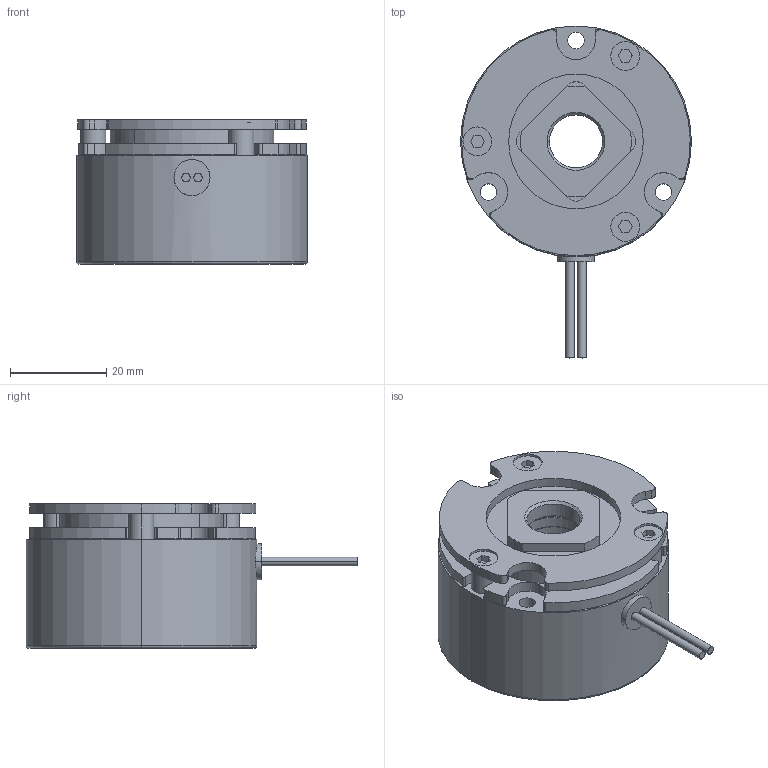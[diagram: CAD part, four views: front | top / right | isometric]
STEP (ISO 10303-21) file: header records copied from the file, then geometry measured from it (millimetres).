
FILE_DESCRIPTION (( 'STEP AP214' ), '1' );
FILE_NAME ('BXW-03-10R.STEP', '2018-10-10T07:49:51', ( 'MIKI' ), ( '' ), 'SwSTEP 2.0', 'SolidWorks 2012', '' );
FILE_SCHEMA (( 'AUTOMOTIVE_DESIGN' ));
Length unit declared in the file: millimetre
Products named in the file (1): BXW-03-10R
Bounding box: 48 x 69 x 30 mm (x, y, z)
Volume: 44688.5 mm3; surface area: 15868.5 mm2
Topology: 1 solids, 1 shells, 176 faces, 467 edges, 304 vertices
Faces by surface type: cylinder 97, plane 71, cone 4, torus 4
Entity records: 7607 total; most frequent: DIRECTION 1035, CARTESIAN_POINT 1014, ORIENTED_EDGE 934, EDGE_CURVE 467, AXIS2_PLACEMENT_3D 393, VERTEX_POINT 304, LINE 249, VECTOR 249
